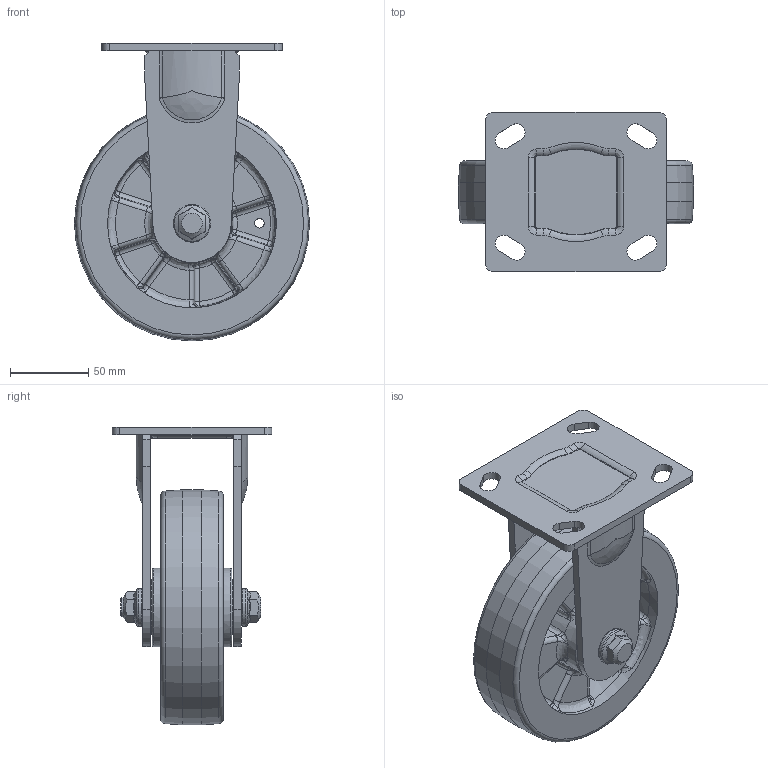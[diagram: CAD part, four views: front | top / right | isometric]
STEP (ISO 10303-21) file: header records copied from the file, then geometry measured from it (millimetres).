
FILE_DESCRIPTION((''),'2;1');
FILE_NAME('C:\Documents and Settings\Administrator\바탕 화면\3D STEP\PM-SERIES\PM-150A-RF\PM-150A-RF.stp','2010-12-27T15:04:36',('Administrator'),(''),'Autodesk Inventor 2009','Autodesk Inventor 2009','');
FILE_SCHEMA(('AUTOMOTIVE_DESIGN { 1 0 10303 214 1 1 1 1 }'));
Length unit declared in the file: millimetre
Products named in the file (1): PM-150A-RF
Bounding box: 150 x 102 x 190 mm (x, y, z)
Volume: 597395.3 mm3; surface area: 151005.6 mm2
Topology: 4 solids, 6 shells, 576 faces, 1380 edges, 784 vertices
Faces by surface type: bspline 303, plane 105, cylinder 98, cone 48, torus 22
Full cylindrical faces by diameter (mm): 6 x1, 12 x1, 21.5 x1, 24 x2, 30.5 x2, 35 x2, 35.18 x2, 150 x1
Entity records: 41683 total; most frequent: CARTESIAN_POINT 30385, ORIENTED_EDGE 2596, DIRECTION 1902, EDGE_CURVE 1298, AXIS2_PLACEMENT_3D 821, VERTEX_POINT 773, EDGE_LOOP 637, FACE_OUTER_BOUND 576
